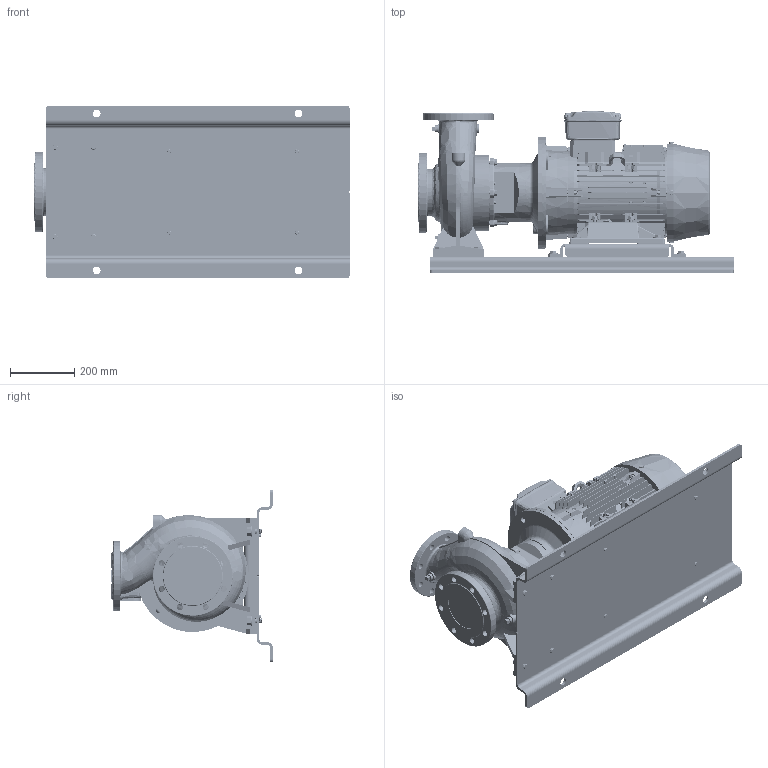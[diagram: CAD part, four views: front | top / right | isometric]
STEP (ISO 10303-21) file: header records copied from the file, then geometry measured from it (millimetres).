
FILE_DESCRIPTION (( 'STEP AP214' ), '1' );
FILE_NAME ('GSD2 100-160_15.0 & 18.5_(160ML)_W21_BP.STEP', '2024-08-02T05:18:55', ( '' ), ( '' ), 'SwSTEP 2.0', 'SolidWorks 2019', '' );
FILE_SCHEMA (( 'AUTOMOTIVE_DESIGN' ));
Length unit declared in the file: millimetre
Products named in the file (22): Parametric bolt and washer_SFT-A303B; 100-160-160M_L_______; N6S2 GSDA-621 F1-1832934-00; Parametric Flat Washer_M16; Parametric bolt and washer_SFT-A297B; Parametric bolt and washer_SFT-A353B; Parametric bolt_SFT-A303B; Parametric Flat Washer_M12; 160M_L_ALIE3_W21T_B35; GSD2  100-160_15.0 & 18.5_(160ML)_W21_BP; CGS11-5252; Parametric bolt_SFT-A297B; Parametric bolt_SFT-A353B
Assembly tree (40 placements, depth 3):
  GSD2  100-160_15.0 & 18.5_(160ML)_W21_BP
    100-160-160M_L_______
    N6S2 GSDA-621 F1-1832934-00
    Parametric bolt and washer_SFT-A353B
      Parametric bolt_SFT-A353B
      Parametric Flat Washer_M16
    Parametric bolt and washer_SFT-A353B
      Parametric bolt_SFT-A353B
      Parametric Flat Washer_M16
    Parametric bolt and washer_SFT-A353B
      Parametric bolt_SFT-A353B
      Parametric Flat Washer_M16
    Parametric bolt and washer_SFT-A353B
      Parametric bolt_SFT-A353B
      Parametric Flat Washer_M16
    CGS11-5252
    Parametric bolt and washer_SFT-A297B
      Parametric bolt_SFT-A297B
      Parametric Flat Washer_M12
    Parametric bolt and washer_SFT-A297B
      Parametric bolt_SFT-A297B
      Parametric Flat Washer_M12
    Parametric bolt and washer_SFT-A297B
      Parametric bolt_SFT-A297B
      Parametric Flat Washer_M12
    Parametric bolt and washer_SFT-A297B
      Parametric bolt_SFT-A297B
      Parametric Flat Washer_M12
    Parametric bolt and washer_SFT-A303B
      Parametric bolt_SFT-A303B
      Parametric Flat Washer_M12
    Parametric bolt and washer_SFT-A303B
      Parametric bolt_SFT-A303B
      Parametric Flat Washer_M12
    Parametric bolt and washer_SFT-A303B
      Parametric bolt_SFT-A303B
      Parametric Flat Washer_M12
    Parametric bolt and washer_SFT-A303B
      Parametric bolt_SFT-A303B
      Parametric Flat Washer_M12
    160M_L_ALIE3_W21T_B35
Bounding box: 985 x 504.53 x 540 mm (x, y, z)
Volume: 56171588.9 mm3; surface area: 4458299.2 mm2
Topology: 57 solids, 63 shells, 6289 faces, 16276 edges, 10533 vertices
Faces by surface type: plane 3737, cylinder 1264, cone 545, bspline 506, torus 221, sphere 16
Entity records: 296748 total; most frequent: CARTESIAN_POINT 110000, ORIENTED_EDGE 29726, DIRECTION 24947, EDGE_CURVE 14863, VERTEX_POINT 9630, VECTOR 9481, LINE 9481, AXIS2_PLACEMENT_3D 7733
